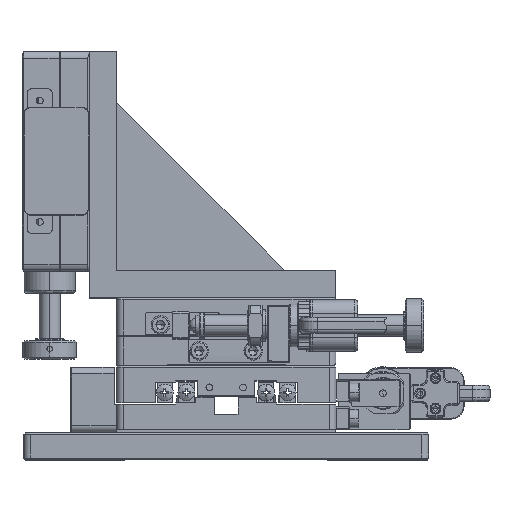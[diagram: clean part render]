
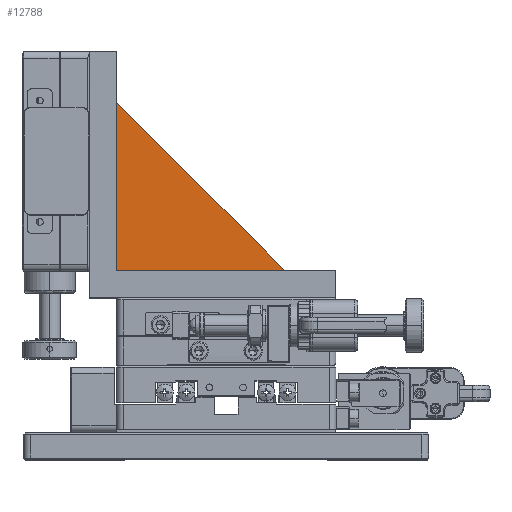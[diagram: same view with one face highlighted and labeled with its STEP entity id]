
A CAD part, top view. The second image highlights one B-rep face of the part: STEP entity #12788.
In plain terms, the highlighted planar face has unit normal (0, 0, -1).
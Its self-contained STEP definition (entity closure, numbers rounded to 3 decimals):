
#2140 = ORIENTED_EDGE ( 'NONE', *, *, #31056, .F. ) ;
#3823 = CARTESIAN_POINT ( 'NONE',  ( -32.5, 48., 4. ) ) ;
#4139 = LINE ( 'NONE', #32805, #82651 ) ;
#5494 = EDGE_LOOP ( 'NONE', ( #6208, #63254, #2140 ) ) ;
#6208 = ORIENTED_EDGE ( 'NONE', *, *, #39826, .T. ) ;
#9286 = EDGE_CURVE ( 'NONE', #29880, #23289, #4139, .T. ) ;
#12513 = VECTOR ( 'NONE', #67853, 1000. ) ;
#12788 = ADVANCED_FACE ( 'NONE', ( #24136 ), #84064, .T. ) ;
#18678 = LINE ( 'NONE', #22083, #12513 ) ;
#19415 = DIRECTION ( 'NONE',  ( 0., 1., 0. ) ) ;
#21854 = CARTESIAN_POINT ( 'NONE',  ( -32.5, 113., 4. ) ) ;
#22083 = CARTESIAN_POINT ( 'NONE',  ( -32.5, 98., 4. ) ) ;
#23289 = VERTEX_POINT ( 'NONE', #31105 ) ;
#24136 = FACE_OUTER_BOUND ( 'NONE', #5494, .T. ) ;
#29314 = AXIS2_PLACEMENT_3D ( 'NONE', #58345, #32191, #19415 ) ;
#29880 = VERTEX_POINT ( 'NONE', #3823 ) ;
#31056 = EDGE_CURVE ( 'NONE', #64162, #29880, #68266, .T. ) ;
#31105 = CARTESIAN_POINT ( 'NONE',  ( 17.5, 48., 4. ) ) ;
#32191 = DIRECTION ( 'NONE',  ( 0., 0., -1. ) ) ;
#32805 = CARTESIAN_POINT ( 'NONE',  ( -32.5, 48., 4. ) ) ;
#39826 = EDGE_CURVE ( 'NONE', #64162, #23289, #18678, .T. ) ;
#49175 = CARTESIAN_POINT ( 'NONE',  ( -32.5, 98., 4. ) ) ;
#53984 = DIRECTION ( 'NONE',  ( 0., -1., 0. ) ) ;
#58345 = CARTESIAN_POINT ( 'NONE',  ( -40.5, 40., 4. ) ) ;
#63254 = ORIENTED_EDGE ( 'NONE', *, *, #9286, .F. ) ;
#64162 = VERTEX_POINT ( 'NONE', #49175 ) ;
#64389 = DIRECTION ( 'NONE',  ( 1., 0., 0. ) ) ;
#66230 = VECTOR ( 'NONE', #53984, 1000. ) ;
#67853 = DIRECTION ( 'NONE',  ( 0.707, -0.707, 0. ) ) ;
#68266 = LINE ( 'NONE', #21854, #66230 ) ;
#82651 = VECTOR ( 'NONE', #64389, 1000. ) ;
#84064 = PLANE ( 'NONE',  #29314 ) ;
